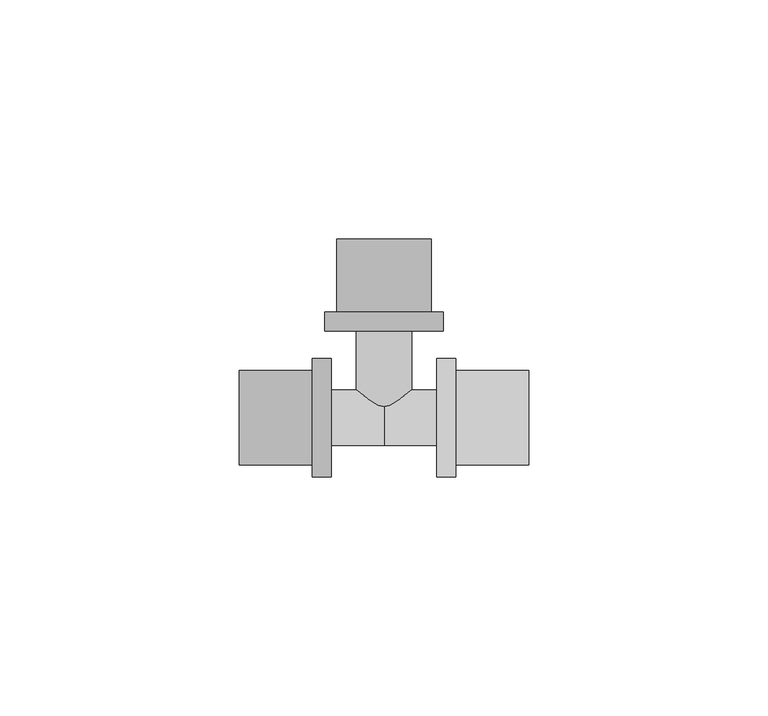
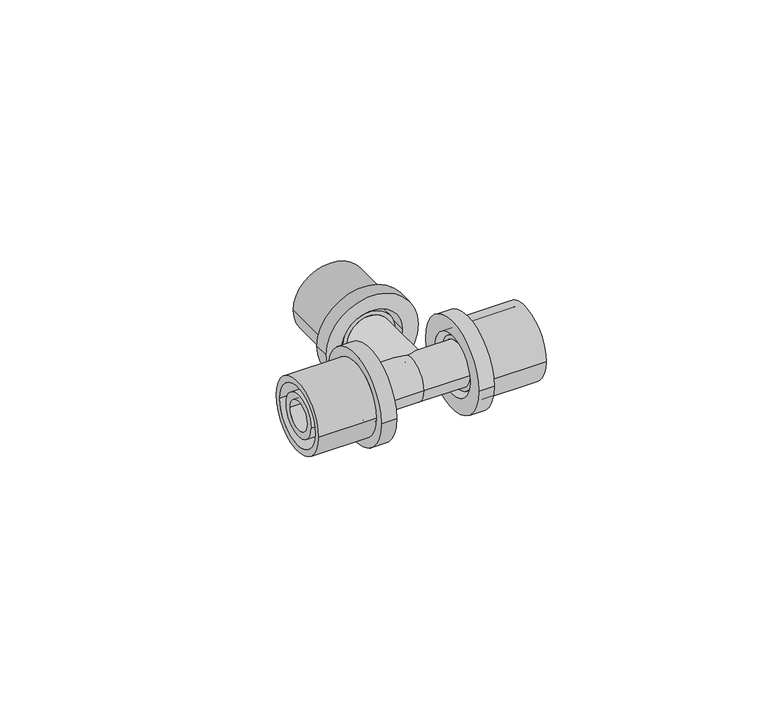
"""IFC4 building model written with IfcOpenShell, lengths in millimetres: pipe fitting geometry, FASTLOC_T-piece_EX+ : FSL T-Piece EX+ AT."""

from ifc_helpers import new_model, si_unit, frame, origin, place, context, project, spatial, polyline, circle_curve, source, transform, mapped, element, save
from ifc_brep_helpers import plane_surface, cylinder_surface, revolved_surface, advanced_brep


def pipe_fitting_378a86a2(model_context):
    return source(origin(), model_context, "Body", "AdvancedBrep", [
        advanced_brep(
        [(15.0, 12.35, 0.0), (15.0, -12.35, 0.0), (11.0, -12.35, 0.0), (11.0, 12.35, 0.0), (30.3, 9.85, 0.0), (30.3, -9.85, 0.0), (15.0, -9.85, 0.0), (15.0, 9.85, 0.0), (11.0, 8.15, 0.0), (11.0, -8.15, 0.0), (30.3, -8.15, 0.0), (30.3, 8.15, 0.0)],
        [
            (0, 1, circle_curve(frame((15.0, 0.0, 0.0), z_axis=(-1.0, 0.0, 0.0), x_axis=(0.0, -1.0, 0.0)), 12.35)),
            (1, 2),
            (2, 3, circle_curve(frame((11.0, 0.0, 0.0), z_axis=(1.0, 0.0, 0.0), x_axis=(0.0, -1.0, 0.0)), 12.35)),
            (3, 0),
            (4, 5, circle_curve(frame((30.3, 0.0, 0.0), z_axis=(-1.0, 0.0, 0.0), x_axis=(0.0, -1.0, 0.0)), 9.85)),
            (5, 6),
            (6, 7, circle_curve(frame((15.0, 0.0, 0.0), z_axis=(1.0, 0.0, 0.0), x_axis=(0.0, -1.0, 0.0)), 9.85)),
            (7, 4),
            (8, 9, circle_curve(frame((11.0, 0.0, 0.0), z_axis=(-1.0, 0.0, 0.0), x_axis=(0.0, -1.0, 0.0)), 8.15)),
            (9, 10),
            (10, 11, circle_curve(frame((30.3, 0.0, 0.0), z_axis=(1.0, 0.0, 0.0), x_axis=(0.0, -1.0, 0.0)), 8.15)),
            (11, 8),
            (1, 0, circle_curve(frame((15.0, 0.0, 0.0), z_axis=(-1.0, 0.0, 0.0), x_axis=(0.0, 1.0, 0.0)), 12.35)),
            (3, 2, circle_curve(frame((11.0, 0.0, 0.0), z_axis=(1.0, 0.0, 0.0), x_axis=(0.0, 1.0, 0.0)), 12.35)),
            (6, 7, circle_curve(frame((15.0, 0.0, 0.0), z_axis=(-1.0, 0.0, 0.0), x_axis=(0.0, 1.0, 0.0)), 9.85)),
            (5, 4, circle_curve(frame((30.3, 0.0, 0.0), z_axis=(-1.0, 0.0, 0.0), x_axis=(0.0, 1.0, 0.0)), 9.85)),
            (10, 11, circle_curve(frame((30.3, 0.0, 0.0), z_axis=(-1.0, 0.0, 0.0), x_axis=(0.0, 1.0, 0.0)), 8.15)),
            (9, 8, circle_curve(frame((11.0, 0.0, 0.0), z_axis=(-1.0, 0.0, 0.0), x_axis=(0.0, 1.0, 0.0)), 8.15)),
        ],
        [
            cylinder_surface(frame((11.0, 0.0, 0.0), z_axis=(1.0, 0.0, 0.0), x_axis=(0.0, -1.0, 0.0)), 12.35),
            cylinder_surface(frame((11.0, 0.0, 0.0), z_axis=(1.0, 0.0, 0.0), x_axis=(0.0, -1.0, 0.0)), 9.85),
            revolved_surface(polyline([(30.3, -8.15, 0.0), (11.0, -8.15, 0.0)]), (11.0, 0.0, 0.0), (1.0, 0.0, 0.0)),
            cylinder_surface(frame((11.0, 0.0, 0.0), z_axis=(1.0, 0.0, 0.0), x_axis=(0.0, 1.0, 0.0)), 12.35),
            plane_surface(frame((15.0, 0.0, 0.0), z_axis=(1.0, 0.0, 0.0), x_axis=(0.0, 1.0, 0.0))),
            cylinder_surface(frame((11.0, 0.0, 0.0), z_axis=(1.0, 0.0, 0.0), x_axis=(0.0, 1.0, 0.0)), 9.85),
            plane_surface(frame((30.3, 0.0, 0.0), z_axis=(1.0, 0.0, 0.0), x_axis=(0.0, 1.0, 0.0))),
            revolved_surface(polyline([(30.3, 8.15, 0.0), (11.0, 8.15, 0.0)]), (11.0, 0.0, 0.0), (1.0, 0.0, 0.0)),
            plane_surface(frame((11.0, 0.0, 0.0), z_axis=(-1.0, 0.0, 0.0), x_axis=(0.0, 1.0, 0.0))),
        ],
        [
            (0, [[1, 2, 3, 4]]),
            (1, [[5, 6, 7, 8]]),
            (2, [[9, 10, 11, 12]]),
            (3, [[13, -4, 14, -2]]),
            (4, [[-13, -1], [15, -7]]),
            (5, [[16, -8, -15, -6]]),
            (6, [[-16, -5], [17, -11]]),
            (7, [[18, -12, -17, -10]]),
            (8, [[-14, -3], [-18, -9]]),
        ],
    ),
        advanced_brep(
        [(-15.0, -12.35, 0.0), (-15.0, 12.35, 0.0), (-11.0, 12.35, 0.0), (-11.0, -12.35, 0.0), (-30.3, -9.85, 0.0), (-30.3, 9.85, 0.0), (-15.0, 9.85, 0.0), (-15.0, -9.85, 0.0), (-11.0, -8.15, 0.0), (-11.0, 8.15, 0.0), (-30.3, 8.15, 0.0), (-30.3, -8.15, 0.0)],
        [
            (0, 1, circle_curve(frame((-15.0, 0.0, 0.0), z_axis=(1.0, 0.0, 0.0), x_axis=(0.0, 1.0, 0.0)), 12.35)),
            (1, 2),
            (2, 3, circle_curve(frame((-11.0, 0.0, 0.0), z_axis=(-1.0, 0.0, 0.0), x_axis=(0.0, 1.0, 0.0)), 12.35)),
            (3, 0),
            (4, 5, circle_curve(frame((-30.3, 0.0, 0.0), z_axis=(1.0, 0.0, 0.0), x_axis=(0.0, 1.0, 0.0)), 9.85)),
            (5, 6),
            (6, 7, circle_curve(frame((-15.0, 0.0, 0.0), z_axis=(-1.0, 0.0, 0.0), x_axis=(0.0, 1.0, 0.0)), 9.85)),
            (7, 4),
            (8, 9, circle_curve(frame((-11.0, 0.0, 0.0), z_axis=(1.0, 0.0, 0.0), x_axis=(0.0, 1.0, 0.0)), 8.15)),
            (9, 10),
            (10, 11, circle_curve(frame((-30.3, 0.0, 0.0), z_axis=(-1.0, 0.0, 0.0), x_axis=(0.0, 1.0, 0.0)), 8.15)),
            (11, 8),
            (1, 0, circle_curve(frame((-15.0, 0.0, 0.0), z_axis=(1.0, 0.0, 0.0), x_axis=(0.0, -1.0, 0.0)), 12.35)),
            (3, 2, circle_curve(frame((-11.0, 0.0, 0.0), z_axis=(-1.0, 0.0, 0.0), x_axis=(0.0, -1.0, 0.0)), 12.35)),
            (6, 7, circle_curve(frame((-15.0, 0.0, 0.0), z_axis=(1.0, 0.0, 0.0), x_axis=(0.0, -1.0, 0.0)), 9.85)),
            (5, 4, circle_curve(frame((-30.3, 0.0, 0.0), z_axis=(1.0, 0.0, 0.0), x_axis=(0.0, -1.0, 0.0)), 9.85)),
            (10, 11, circle_curve(frame((-30.3, 0.0, 0.0), z_axis=(1.0, 0.0, 0.0), x_axis=(0.0, -1.0, 0.0)), 8.15)),
            (9, 8, circle_curve(frame((-11.0, 0.0, 0.0), z_axis=(1.0, 0.0, 0.0), x_axis=(0.0, -1.0, 0.0)), 8.15)),
        ],
        [
            cylinder_surface(frame((-11.0, 0.0, 0.0), z_axis=(-1.0, 0.0, 0.0), x_axis=(0.0, 1.0, 0.0)), 12.35),
            cylinder_surface(frame((-11.0, 0.0, 0.0), z_axis=(-1.0, 0.0, 0.0), x_axis=(0.0, 1.0, 0.0)), 9.85),
            revolved_surface(polyline([(-30.3, 8.15, 0.0), (-11.0, 8.15, 0.0)]), (-11.0, 0.0, 0.0), (-1.0, 0.0, 0.0)),
            cylinder_surface(frame((-11.0, 0.0, 0.0), z_axis=(-1.0, 0.0, 0.0), x_axis=(0.0, -1.0, 0.0)), 12.35),
            plane_surface(frame((-15.0, 0.0, 0.0), z_axis=(-1.0, 0.0, 0.0), x_axis=(0.0, -1.0, 0.0))),
            cylinder_surface(frame((-11.0, 0.0, 0.0), z_axis=(-1.0, 0.0, 0.0), x_axis=(0.0, -1.0, 0.0)), 9.85),
            plane_surface(frame((-30.3, 0.0, 0.0), z_axis=(-1.0, 0.0, 0.0), x_axis=(0.0, -1.0, 0.0))),
            revolved_surface(polyline([(-30.3, -8.15, 0.0), (-11.0, -8.15, 0.0)]), (-11.0, 0.0, 0.0), (-1.0, 0.0, 0.0)),
            plane_surface(frame((-11.0, 0.0, 0.0), z_axis=(1.0, 0.0, 0.0), x_axis=(0.0, -1.0, 0.0))),
        ],
        [
            (0, [[1, 2, 3, 4]]),
            (1, [[5, 6, 7, 8]]),
            (2, [[9, 10, 11, 12]]),
            (3, [[13, -4, 14, -2]]),
            (4, [[-13, -1], [15, -7]]),
            (5, [[16, -8, -15, -6]]),
            (6, [[-16, -5], [17, -11]]),
            (7, [[18, -12, -17, -10]]),
            (8, [[-14, -3], [-18, -9]]),
        ],
    ),
        advanced_brep(
        [(-12.35, 22.1, 0.0), (12.35, 22.1, 0.0), (12.35, 18.1, 0.0), (-12.35, 18.1, 0.0), (-9.85, 37.4, 0.0), (9.85, 37.4, 0.0), (9.85, 22.1, 0.0), (-9.85, 22.1, 0.0), (-8.15, 18.1, 0.0), (8.15, 18.1, 0.0), (8.15, 37.4, 0.0), (-8.15, 37.4, 0.0)],
        [
            (0, 1, circle_curve(frame((0.0, 22.1, 0.0), z_axis=(0.0, -1.0, 0.0), x_axis=(1.0, 0.0, 0.0)), 12.35)),
            (1, 2),
            (2, 3, circle_curve(frame((0.0, 18.1, 0.0), z_axis=(0.0, 1.0, 0.0), x_axis=(1.0, 0.0, 0.0)), 12.35)),
            (3, 0),
            (4, 5, circle_curve(frame((0.0, 37.4, 0.0), z_axis=(0.0, -1.0, 0.0), x_axis=(1.0, 0.0, 0.0)), 9.85)),
            (5, 6),
            (6, 7, circle_curve(frame((0.0, 22.1, 0.0), z_axis=(0.0, 1.0, 0.0), x_axis=(1.0, 0.0, 0.0)), 9.85)),
            (7, 4),
            (8, 9, circle_curve(frame((0.0, 18.1, 0.0), z_axis=(0.0, -1.0, 0.0), x_axis=(1.0, 0.0, 0.0)), 8.15)),
            (9, 10),
            (10, 11, circle_curve(frame((0.0, 37.4, 0.0), z_axis=(0.0, 1.0, 0.0), x_axis=(1.0, 0.0, 0.0)), 8.15)),
            (11, 8),
            (1, 0, circle_curve(frame((0.0, 22.1, 0.0), z_axis=(0.0, -1.0, 0.0), x_axis=(-1.0, 0.0, 0.0)), 12.35)),
            (3, 2, circle_curve(frame((0.0, 18.1, 0.0), z_axis=(0.0, 1.0, 0.0), x_axis=(-1.0, 0.0, 0.0)), 12.35)),
            (6, 7, circle_curve(frame((0.0, 22.1, 0.0), z_axis=(0.0, -1.0, 0.0), x_axis=(-1.0, 0.0, 0.0)), 9.85)),
            (5, 4, circle_curve(frame((0.0, 37.4, 0.0), z_axis=(0.0, -1.0, 0.0), x_axis=(-1.0, 0.0, 0.0)), 9.85)),
            (10, 11, circle_curve(frame((0.0, 37.4, 0.0), z_axis=(0.0, -1.0, 0.0), x_axis=(-1.0, 0.0, 0.0)), 8.15)),
            (9, 8, circle_curve(frame((0.0, 18.1, 0.0), z_axis=(0.0, -1.0, 0.0), x_axis=(-1.0, 0.0, 0.0)), 8.15)),
        ],
        [
            cylinder_surface(frame((0.0, 18.1, 0.0), z_axis=(0.0, 1.0, 0.0), x_axis=(1.0, 0.0, 0.0)), 12.35),
            cylinder_surface(frame((0.0, 18.1, 0.0), z_axis=(0.0, 1.0, 0.0), x_axis=(1.0, 0.0, 0.0)), 9.85),
            revolved_surface(polyline([(8.15, 37.4, 0.0), (8.15, 18.1, 0.0)]), (0.0, 18.1, 0.0), (0.0, 1.0, 0.0)),
            cylinder_surface(frame((0.0, 18.1, 0.0), z_axis=(0.0, 1.0, 0.0), x_axis=(-1.0, 0.0, 0.0)), 12.35),
            plane_surface(frame((0.0, 22.1, 0.0), z_axis=(0.0, 1.0, 0.0), x_axis=(-1.0, 0.0, 0.0))),
            cylinder_surface(frame((0.0, 18.1, 0.0), z_axis=(0.0, 1.0, 0.0), x_axis=(-1.0, 0.0, 0.0)), 9.85),
            plane_surface(frame((0.0, 37.4, 0.0), z_axis=(0.0, 1.0, 0.0), x_axis=(-1.0, 0.0, 0.0))),
            revolved_surface(polyline([(-8.15, 37.4, 0.0), (-8.15, 18.1, 0.0)]), (0.0, 18.1, 0.0), (0.0, 1.0, 0.0)),
            plane_surface(frame((0.0, 18.1, 0.0), z_axis=(0.0, -1.0, 0.0), x_axis=(-1.0, 0.0, 0.0))),
        ],
        [
            (0, [[1, 2, 3, 4]]),
            (1, [[5, 6, 7, 8]]),
            (2, [[9, 10, 11, 12]]),
            (3, [[13, -4, 14, -2]]),
            (4, [[-13, -1], [15, -7]]),
            (5, [[16, -8, -15, -6]]),
            (6, [[-16, -5], [17, -11]]),
            (7, [[18, -12, -17, -10]]),
            (8, [[-14, -3], [-18, -9]]),
        ],
    ),
        advanced_brep(
        [(0.0, 5.8, 0.0), (0.0, -5.8, 0.0), (-12.29, -5.8, 0.0), (-12.29, 5.8, 0.0), (12.29, 5.8, 0.0), (12.29, -5.8, 0.0), (15.0, 6.9, 0.0), (15.0, -6.9, 0.0), (12.29, -6.9, 0.0), (12.29, 6.9, 0.0), (30.0, 5.8, 0.0), (30.0, -5.8, 0.0), (15.0, -5.8, 0.0), (15.0, 5.8, 0.0), (-30.0, 3.95, 0.0), (-30.0, -3.95, 0.0), (30.0, -3.95, 0.0), (30.0, 3.95, 0.0), (-15.0, 5.8, 0.0), (-15.0, -5.8, 0.0), (-30.0, -5.8, 0.0), (-30.0, 5.8, 0.0), (-12.29, 6.9, 0.0), (-12.29, -6.9, 0.0), (-15.0, -6.9, 0.0), (-15.0, 6.9, 0.0)],
        [
            (0, 1, circle_curve(frame((0.0, 0.0, 0.0), z_axis=(-1.0, 0.0, 0.0), x_axis=(0.0, -1.0, 0.0)), 5.8)),
            (1, 2),
            (2, 3, circle_curve(frame((-12.29, 0.0, 0.0), z_axis=(1.0, 0.0, 0.0), x_axis=(0.0, -1.0, 0.0)), 5.8)),
            (3, 0),
            (4, 5, circle_curve(frame((12.29, 0.0, 0.0), z_axis=(-1.0, 0.0, 0.0), x_axis=(0.0, -1.0, 0.0)), 5.8)),
            (5, 1),
            (0, 4),
            (6, 7, circle_curve(frame((15.0, 0.0, 0.0), z_axis=(-1.0, 0.0, 0.0), x_axis=(0.0, -1.0, 0.0)), 6.9)),
            (7, 8),
            (8, 9, circle_curve(frame((12.29, 0.0, 0.0), z_axis=(1.0, 0.0, 0.0), x_axis=(0.0, -1.0, 0.0)), 6.9)),
            (9, 6),
            (10, 11, circle_curve(frame((30.0, 0.0, 0.0), z_axis=(-1.0, 0.0, 0.0), x_axis=(0.0, -1.0, 0.0)), 5.8)),
            (11, 12),
            (12, 13, circle_curve(frame((15.0, 0.0, 0.0), z_axis=(1.0, 0.0, 0.0), x_axis=(0.0, -1.0, 0.0)), 5.8)),
            (13, 10),
            (14, 15, circle_curve(frame((-30.0, 0.0, 0.0), z_axis=(-1.0, 0.0, 0.0), x_axis=(0.0, -1.0, 0.0)), 3.95)),
            (15, 16),
            (16, 17, circle_curve(frame((30.0, 0.0, 0.0), z_axis=(1.0, 0.0, 0.0), x_axis=(0.0, -1.0, 0.0)), 3.95)),
            (17, 14),
            (18, 19, circle_curve(frame((-15.0, 0.0, 0.0), z_axis=(-1.0, 0.0, 0.0), x_axis=(0.0, -1.0, 0.0)), 5.8)),
            (19, 20),
            (20, 21, circle_curve(frame((-30.0, 0.0, 0.0), z_axis=(1.0, 0.0, 0.0), x_axis=(0.0, -1.0, 0.0)), 5.8)),
            (21, 18),
            (22, 23, circle_curve(frame((-12.29, 0.0, 0.0), z_axis=(-1.0, 0.0, 0.0), x_axis=(0.0, -1.0, 0.0)), 6.9)),
            (23, 24),
            (24, 25, circle_curve(frame((-15.0, 0.0, 0.0), z_axis=(1.0, 0.0, 0.0), x_axis=(0.0, -1.0, 0.0)), 6.9)),
            (25, 22),
            (22, 23, circle_curve(frame((-12.29, 0.0, 0.0), z_axis=(1.0, 0.0, 0.0), x_axis=(0.0, 1.0, 0.0)), 6.9)),
            (2, 3, circle_curve(frame((-12.29, 0.0, 0.0), z_axis=(-1.0, 0.0, 0.0), x_axis=(0.0, 1.0, 0.0)), 5.8)),
            (1, 0, circle_curve(frame((0.0, 0.0, 0.0), z_axis=(-1.0, 0.0, 0.0), x_axis=(0.0, 1.0, 0.0)), 5.8)),
            (5, 4, circle_curve(frame((12.29, 0.0, 0.0), z_axis=(-1.0, 0.0, 0.0), x_axis=(0.0, 1.0, 0.0)), 5.8)),
            (8, 9, circle_curve(frame((12.29, 0.0, 0.0), z_axis=(-1.0, 0.0, 0.0), x_axis=(0.0, 1.0, 0.0)), 6.9)),
            (7, 6, circle_curve(frame((15.0, 0.0, 0.0), z_axis=(-1.0, 0.0, 0.0), x_axis=(0.0, 1.0, 0.0)), 6.9)),
            (12, 13, circle_curve(frame((15.0, 0.0, 0.0), z_axis=(-1.0, 0.0, 0.0), x_axis=(0.0, 1.0, 0.0)), 5.8)),
            (11, 10, circle_curve(frame((30.0, 0.0, 0.0), z_axis=(-1.0, 0.0, 0.0), x_axis=(0.0, 1.0, 0.0)), 5.8)),
            (16, 17, circle_curve(frame((30.0, 0.0, 0.0), z_axis=(-1.0, 0.0, 0.0), x_axis=(0.0, 1.0, 0.0)), 3.95)),
            (15, 14, circle_curve(frame((-30.0, 0.0, 0.0), z_axis=(-1.0, 0.0, 0.0), x_axis=(0.0, 1.0, 0.0)), 3.95)),
            (20, 21, circle_curve(frame((-30.0, 0.0, 0.0), z_axis=(-1.0, 0.0, 0.0), x_axis=(0.0, 1.0, 0.0)), 5.8)),
            (19, 18, circle_curve(frame((-15.0, 0.0, 0.0), z_axis=(-1.0, 0.0, 0.0), x_axis=(0.0, 1.0, 0.0)), 5.8)),
            (24, 25, circle_curve(frame((-15.0, 0.0, 0.0), z_axis=(-1.0, 0.0, 0.0), x_axis=(0.0, 1.0, 0.0)), 6.9)),
        ],
        [
            cylinder_surface(frame((0.0, 0.0, 0.0), z_axis=(1.0, 0.0, 0.0), x_axis=(0.0, -1.0, 0.0)), 5.8),
            cylinder_surface(frame((0.0, 0.0, 0.0), z_axis=(1.0, 0.0, 0.0), x_axis=(0.0, -1.0, 0.0)), 6.9),
            revolved_surface(polyline([(30.0, -3.95, 0.0), (-30.0, -3.95, 0.0)]), (0.0, 0.0, 0.0), (1.0, 0.0, 0.0)),
            plane_surface(frame((-12.29, 0.0, 0.0), z_axis=(1.0, 0.0, 0.0), x_axis=(0.0, 1.0, 0.0))),
            cylinder_surface(frame((0.0, 0.0, 0.0), z_axis=(1.0, 0.0, 0.0), x_axis=(0.0, 1.0, 0.0)), 5.8),
            plane_surface(frame((12.29, 0.0, 0.0), z_axis=(-1.0, 0.0, 0.0), x_axis=(0.0, 1.0, 0.0))),
            cylinder_surface(frame((0.0, 0.0, 0.0), z_axis=(1.0, 0.0, 0.0), x_axis=(0.0, 1.0, 0.0)), 6.9),
            plane_surface(frame((15.0, 0.0, 0.0), z_axis=(1.0, 0.0, 0.0), x_axis=(0.0, 1.0, 0.0))),
            plane_surface(frame((30.0, 0.0, 0.0), z_axis=(1.0, 0.0, 0.0), x_axis=(0.0, 1.0, 0.0))),
            revolved_surface(polyline([(30.0, 3.95, 0.0), (-30.0, 3.95, 0.0)]), (0.0, 0.0, 0.0), (1.0, 0.0, 0.0)),
            plane_surface(frame((-30.0, 0.0, 0.0), z_axis=(-1.0, 0.0, 0.0), x_axis=(0.0, 1.0, 0.0))),
            plane_surface(frame((-15.0, 0.0, 0.0), z_axis=(-1.0, 0.0, 0.0), x_axis=(0.0, 1.0, 0.0))),
        ],
        [
            (0, [[1, 2, 3, 4]]),
            (0, [[5, 6, -1, 7]]),
            (1, [[8, 9, 10, 11]]),
            (0, [[12, 13, 14, 15]]),
            (2, [[16, 17, 18, 19]]),
            (0, [[20, 21, 22, 23]]),
            (1, [[24, 25, 26, 27]]),
            (3, [[28, -24], [29, -3]]),
            (4, [[30, -4, -29, -2]]),
            (4, [[31, -7, -30, -6]]),
            (5, [[32, -10], [-31, -5]]),
            (6, [[33, -11, -32, -9]]),
            (7, [[-33, -8], [34, -14]]),
            (4, [[35, -15, -34, -13]]),
            (8, [[-35, -12], [36, -18]]),
            (9, [[37, -19, -36, -17]]),
            (10, [[38, -22], [-37, -16]]),
            (4, [[39, -23, -38, -21]]),
            (11, [[40, -26], [-39, -20]]),
            (6, [[-28, -27, -40, -25]]),
        ],
    ),
        advanced_brep(
        [(3.95, 37.1, 0.0), (-3.95, 37.1, 0.0), (-3.95, 0.0, 0.0), (3.95, 0.0, 0.0), (5.8, 0.0, 0.0), (-5.8, 0.0, 0.0), (-5.8, 19.39, 0.0), (5.8, 19.39, 0.0), (6.9, 19.39, 0.0), (-6.9, 19.39, 0.0), (-6.9, 22.1, 0.0), (6.9, 22.1, 0.0), (5.8, 22.1, 0.0), (-5.8, 22.1, 0.0), (-5.8, 37.1, 0.0), (5.8, 37.1, 0.0)],
        [
            (0, 1, circle_curve(frame((0.0, 37.1, 0.0), z_axis=(0.0, 1.0, 0.0), x_axis=(-1.0, 0.0, 0.0)), 3.95)),
            (1, 2),
            (2, 3, circle_curve(frame((0.0, 0.0, 0.0), z_axis=(0.0, -1.0, 0.0), x_axis=(-1.0, 0.0, 0.0)), 3.95)),
            (3, 0),
            (4, 5, circle_curve(frame((0.0, 0.0, 0.0), z_axis=(0.0, 1.0, 0.0), x_axis=(-1.0, 0.0, 0.0)), 5.8)),
            (5, 6),
            (6, 7, circle_curve(frame((0.0, 19.39, 0.0), z_axis=(0.0, -1.0, 0.0), x_axis=(-1.0, 0.0, 0.0)), 5.8)),
            (7, 4),
            (8, 9, circle_curve(frame((0.0, 19.39, 0.0), z_axis=(0.0, 1.0, 0.0), x_axis=(-1.0, 0.0, 0.0)), 6.9)),
            (9, 10),
            (10, 11, circle_curve(frame((0.0, 22.1, 0.0), z_axis=(0.0, -1.0, 0.0), x_axis=(-1.0, 0.0, 0.0)), 6.9)),
            (11, 8),
            (12, 13, circle_curve(frame((0.0, 22.1, 0.0), z_axis=(0.0, 1.0, 0.0), x_axis=(-1.0, 0.0, 0.0)), 5.8)),
            (13, 14),
            (14, 15, circle_curve(frame((0.0, 37.1, 0.0), z_axis=(0.0, -1.0, 0.0), x_axis=(-1.0, 0.0, 0.0)), 5.8)),
            (15, 12),
            (1, 0, circle_curve(frame((0.0, 37.1, 0.0), z_axis=(0.0, 1.0, 0.0), x_axis=(1.0, 0.0, 0.0)), 3.95)),
            (3, 2, circle_curve(frame((0.0, 0.0, 0.0), z_axis=(0.0, -1.0, 0.0), x_axis=(1.0, 0.0, 0.0)), 3.95)),
            (4, 5, circle_curve(frame((0.0, 0.0, 0.0), z_axis=(0.0, -1.0, 0.0), x_axis=(1.0, 0.0, 0.0)), 5.8)),
            (7, 6, circle_curve(frame((0.0, 19.39, 0.0), z_axis=(0.0, -1.0, 0.0), x_axis=(1.0, 0.0, 0.0)), 5.8)),
            (8, 9, circle_curve(frame((0.0, 19.39, 0.0), z_axis=(0.0, -1.0, 0.0), x_axis=(1.0, 0.0, 0.0)), 6.9)),
            (11, 10, circle_curve(frame((0.0, 22.1, 0.0), z_axis=(0.0, -1.0, 0.0), x_axis=(1.0, 0.0, 0.0)), 6.9)),
            (12, 13, circle_curve(frame((0.0, 22.1, 0.0), z_axis=(0.0, -1.0, 0.0), x_axis=(1.0, 0.0, 0.0)), 5.8)),
            (15, 14, circle_curve(frame((0.0, 37.1, 0.0), z_axis=(0.0, -1.0, 0.0), x_axis=(1.0, 0.0, 0.0)), 5.8)),
        ],
        [
            revolved_surface(polyline([(-3.95, 0.0, 0.0), (-3.95, 37.1, 0.0)]), (0.0, 0.0, 0.0), (0.0, -1.0, 0.0)),
            cylinder_surface(frame((0.0, 0.0, 0.0), z_axis=(0.0, -1.0, 0.0), x_axis=(-1.0, 0.0, 0.0)), 5.8),
            cylinder_surface(frame((0.0, 0.0, 0.0), z_axis=(0.0, -1.0, 0.0), x_axis=(-1.0, 0.0, 0.0)), 6.9),
            revolved_surface(polyline([(3.95, 0.0, 0.0), (3.95, 37.1, 0.0)]), (0.0, 0.0, 0.0), (0.0, -1.0, 0.0)),
            plane_surface(frame((0.0, 0.0, 0.0), z_axis=(0.0, -1.0, 0.0), x_axis=(1.0, 0.0, 0.0))),
            cylinder_surface(frame((0.0, 0.0, 0.0), z_axis=(0.0, -1.0, 0.0), x_axis=(1.0, 0.0, 0.0)), 5.8),
            plane_surface(frame((0.0, 19.39, 0.0), z_axis=(0.0, -1.0, 0.0), x_axis=(1.0, 0.0, 0.0))),
            cylinder_surface(frame((0.0, 0.0, 0.0), z_axis=(0.0, -1.0, 0.0), x_axis=(1.0, 0.0, 0.0)), 6.9),
            plane_surface(frame((0.0, 22.1, 0.0), z_axis=(0.0, 1.0, 0.0), x_axis=(1.0, 0.0, 0.0))),
            plane_surface(frame((0.0, 37.1, 0.0), z_axis=(0.0, 1.0, 0.0), x_axis=(1.0, 0.0, 0.0))),
        ],
        [
            (0, [[1, 2, 3, 4]]),
            (1, [[5, 6, 7, 8]]),
            (2, [[9, 10, 11, 12]]),
            (1, [[13, 14, 15, 16]]),
            (3, [[17, -4, 18, -2]]),
            (4, [[19, -5], [-18, -3]]),
            (5, [[-19, -8, 20, -6]]),
            (6, [[21, -9], [-20, -7]]),
            (7, [[-21, -12, 22, -10]]),
            (8, [[-22, -11], [23, -13]]),
            (5, [[-23, -16, 24, -14]]),
            (9, [[-24, -15], [-17, -1]]),
        ],
    ),
    ])


if __name__ == "__main__":
    model = new_model("IFC4")
    model_context = context("Model", 3, world=origin())
    ifc_project = project(units=[si_unit("LENGTHUNIT", "METRE", prefix="MILLI")], contexts=[model_context])
    site = spatial("IfcSite", under=ifc_project)
    building = spatial("IfcBuilding", under=site)
    placement = place(None, origin())
    pipe_fitting_shape = pipe_fitting_378a86a2(model_context)
    element("IfcPipeFitting", 1, ObjectType="FASTLOC_T-piece_EX+ : FSL T-Piece EX+ AT", at=placement, inside=building, context=model_context, shape_type="MappedRepresentation", body=[
        mapped(pipe_fitting_shape, transform((0.0, 0.0, 0.0), x_axis=(1.0, 0.0, 0.0), y_axis=(0.0, 1.0, 0.0), z_axis=(0.0, 0.0, 1.0))),
    ])
    save(model, "model.ifc")
